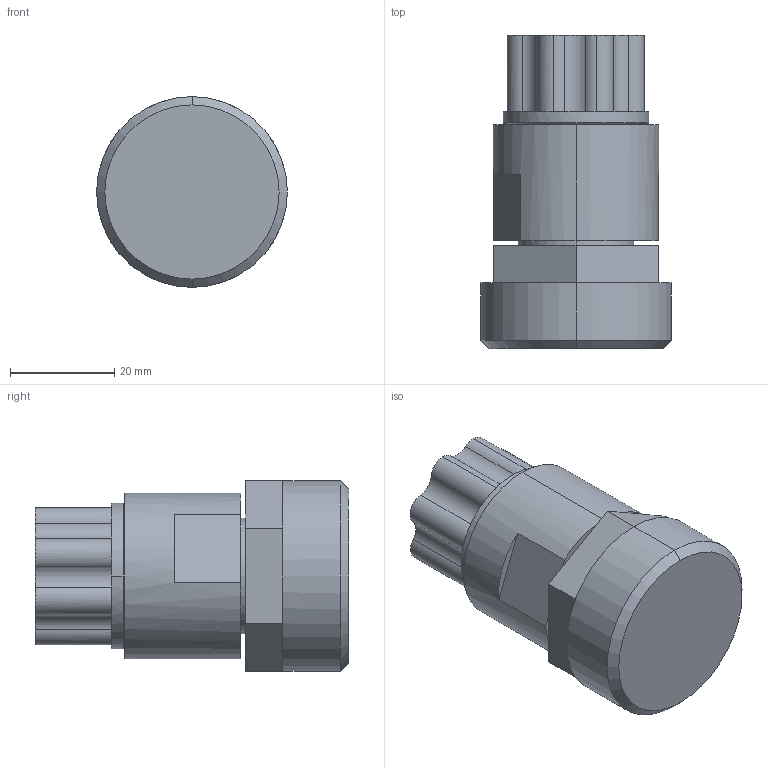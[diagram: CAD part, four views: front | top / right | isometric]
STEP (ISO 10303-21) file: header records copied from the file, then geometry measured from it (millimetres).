
FILE_DESCRIPTION (( 'STEP AP214' ), '1' );
FILE_NAME ('08-synchro-flare-with-top-mount-adapter.STEP', '2012-11-27T23:17:43', ( '' ), ( '' ), 'SwSTEP 2.0', 'SolidWorks 2012', '' );
FILE_SCHEMA (( 'AUTOMOTIVE_DESIGN' ));
Length unit declared in the file: inch
Products named in the file (1): 08-synchro-flare-with-top-mount-adapter
Bounding box: 36.6 x 60.15 x 36.66 mm (x, y, z)
Volume: 45248 mm3; surface area: 9310.2 mm2
Topology: 1 solids, 1 shells, 70 faces, 167 edges, 104 vertices
Faces by surface type: plane 37, cylinder 29, cone 4
Entity records: 2130 total; most frequent: DIRECTION 405, CARTESIAN_POINT 342, ORIENTED_EDGE 334, EDGE_CURVE 167, AXIS2_PLACEMENT_3D 167, VERTEX_POINT 104, CIRCLE 96, EDGE_LOOP 75
